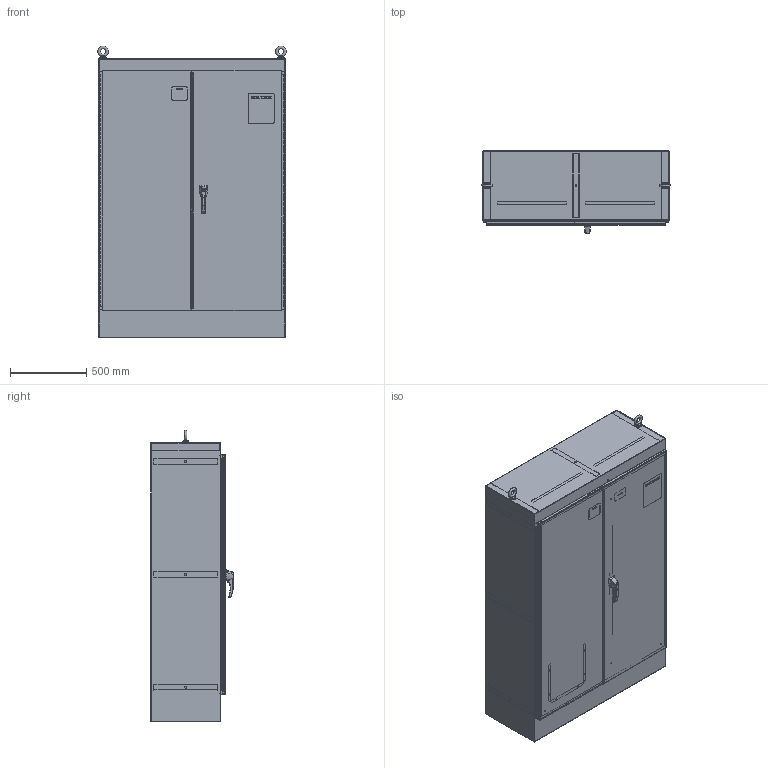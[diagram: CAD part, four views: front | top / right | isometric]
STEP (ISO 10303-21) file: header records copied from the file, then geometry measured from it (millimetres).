
FILE_DESCRIPTION(/* description */ ('Unknown'),/* implementation_level */ '2;1');
FILE_NAME(/* name */ '1418ZW18',/* time_stamp */ '2018-10-03T16:12:03-04:00',/* author */ ('Unknown'),/* organization */ ('Unknown'),/* preprocessor_version */ 'ST-DEVELOPER v16.7',/* originating_system */ 'DEX',/* authorisation */ $);
FILE_SCHEMA (('AUTOMOTIVE_DESIGN {1 0 10303 214 3 1 1}'));
Products named in the file (56): 1418ZW18; COM48834; COM42890-1; STD21878; COM54748; COM48805; COM55702-82; COM48817; COM48814; WAM254785; WAF25362; scs00680; NTS166905; COM44035-1; COM44035; COM54578-60; COM56747-2; STD26265; COM56746-2; COM41308; LAB11936; BUL10020; LAB20183; PKT1212; KIT90256; LAB30005; NTS165305; NTS16535; LAB11975; QLB20205; COM50567; SPC87323; HAN13066_oa_0; HAN13066; HAN13066_SCREW; HAN13066_NUT; HAN_NUT; GSK11033_oa_1; NTS16640; GSK11033_oa_2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
Assembly tree (83 placements, depth 4):
  1418ZW18
    COM48834
    COM42890-1  x8
    STD21878  x2
    COM54748
    COM48805
    COM55702-82  x2
    COM48817
    COM48814
    WAM254785  x2
    WAF25362  x2
    scs00680  x2
    NTS166905  x2
    COM44035-1
      COM44035
      COM54578-60
      STD21878
    COM56747-2
      STD21878
      STD26265  x2
      COM56746-2
      COM54578-60
    COM41308  x2
    LAB11936
    BUL10020
    LAB20183
    PKT1212
    KIT90256
      LAB30005
      NTS165305
      NTS16535
    LAB11975
    QLB20205
    COM50567  x2
    SPC87323
    HAN13066_oa_0
      HAN13066
      HAN13066_SCREW
      HAN13066_NUT
      HAN_NUT
    GSK11033_oa_1
    NTS16640
    GSK11033_oa_2
    GSK11033_oa_3
    GSK11033_oa_4
    GSK11033_oa_5
    GSK11033_oa_6
    GSK11033_oa_7
    COM70840-3_oa_8
      COM70838
      COM70839-3_oa_9
        COM70839-3
      RVT19000  x2
      RVT17786  x2
      NTS18147  x2
      WAM30038  x2
      COM70839-3_oa_10
        COM70839-3
      WAF25376  x4
      ROL87452  x2
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Bounding box: 1234.41 x 541.96 x 1911.33 mm (x, y, z)
Volume: 23547194.7 mm3; surface area: 18033593.6 mm2
Topology: 77 solids, 77 shells, 2813 faces, 7526 edges, 4937 vertices
Faces by surface type: plane 1597, cylinder 815, bspline 314, cone 69, torus 12, sphere 6
Full cylindrical faces by diameter (mm): 2.54 x2, 4.394 x1, 4.976 x1, 5.893 x1, 5.918 x1, 6.35 x9, 6.528 x4, 7.112 x4, 7.137 x8, 7.722 x20, 7.805 x1, 7.95 x2, 8.128 x1, 8.255 x1, 8.484 x1, 8.89 x1, 9.398 x2, 9.525 x1, 9.906 x4, 10.49 x2, 11.125 x1, 11.176 x2, 12.7 x8, 13.335 x1, 13.376 x2, 15.24 x1, 15.85 x2, 15.875 x4, 16.002 x4, 16.891 x1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
Entity records: 66519 total; most frequent: CARTESIAN_POINT 18680, ORIENTED_EDGE 10108, DIRECTION 8722, EDGE_CURVE 5054, VERTEX_POINT 3347, LINE 3268, VECTOR 3268, AXIS2_PLACEMENT_3D 2727
